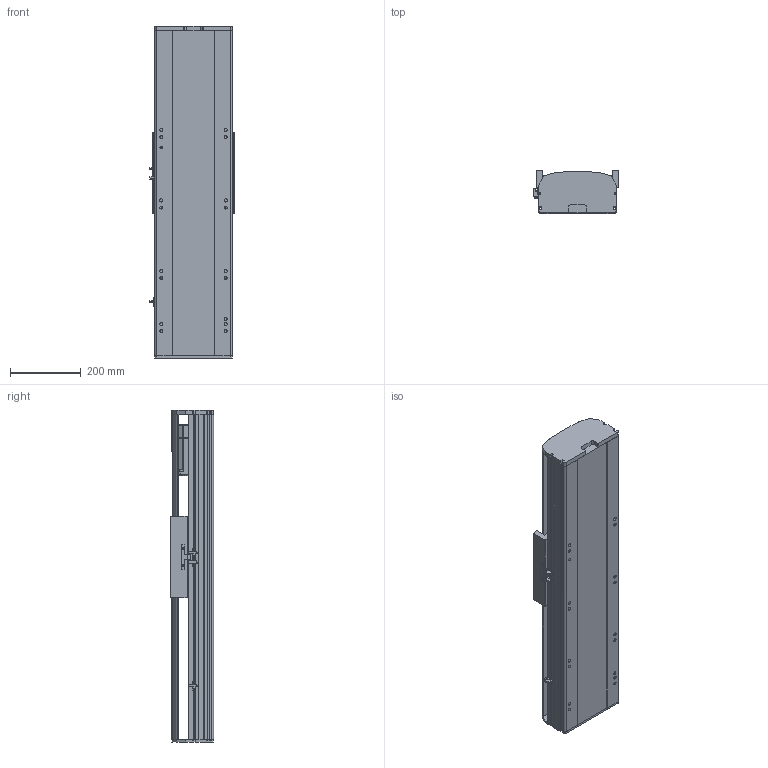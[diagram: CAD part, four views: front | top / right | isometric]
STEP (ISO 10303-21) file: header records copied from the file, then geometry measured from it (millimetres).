
FILE_DESCRIPTION (( 'STEP AP214' ), '1' );
FILE_NAME ('RTH22-XX-350-B-M75-C4.STEP', '2025-10-24T10:27:35', ( 'Microsoft' ), ( 'Microsoft' ), 'SwSTEP 2.0', 'SolidWorks 2018', '' );
FILE_SCHEMA (( 'AUTOMOTIVE_DESIGN' ));
Length unit declared in the file: millimetre
Products named in the file (9): N_RTH22-B-007奻裔^RTH22-XX-XX-B-M75-C4; N_RTH22-E-004-SFS25賑釱^RTH22-XX-XX-B-M75-C4; RTH22-XX-350-B-M75-C4; N_RTH22-GY-013外置感应片^RTH22-XX-XX-B-M75-C4; N_750W萇儂^RTH22-XX-XX-B-M75-C4; N_RTH22-GY-001耜裔^RTH22-XX-XX-B-M75-C4; N_RTH22-B-011菁釱^RTH22-XX-XX-B-M75-C4; N_OMRON EE-SX672 传感器^RTH22-XX-XX-B-M75-C4; N_RTH22-B-008萇儂啣^RTH22-XX-XX-B-M75-C4
Assembly tree (10 placements, depth 2):
  RTH22-XX-350-B-M75-C4
    N_RTH22-B-011菁釱^RTH22-XX-XX-B-M75-C4
    N_RTH22-GY-001耜裔^RTH22-XX-XX-B-M75-C4
    N_750W萇儂^RTH22-XX-XX-B-M75-C4
    N_RTH22-B-008萇儂啣^RTH22-XX-XX-B-M75-C4
    N_RTH22-B-007奻裔^RTH22-XX-XX-B-M75-C4
    N_OMRON EE-SX672 传感器^RTH22-XX-XX-B-M75-C4  x3
    N_RTH22-GY-013外置感应片^RTH22-XX-XX-B-M75-C4
    N_RTH22-E-004-SFS25賑釱^RTH22-XX-XX-B-M75-C4
Bounding box: 238.5 x 122 x 940 mm (x, y, z)
Volume: 13891940.6 mm3; surface area: 1461078.7 mm2
Topology: 10 solids, 10 shells, 1479 faces, 4050 edges, 2623 vertices
Faces by surface type: plane 748, cylinder 406, bspline 279, cone 46
Entity records: 36117 total; most frequent: CARTESIAN_POINT 11401, ORIENTED_EDGE 5100, DIRECTION 4728, EDGE_CURVE 2550, VERTEX_POINT 1659, LINE 1596, VECTOR 1596, AXIS2_PLACEMENT_3D 1566
